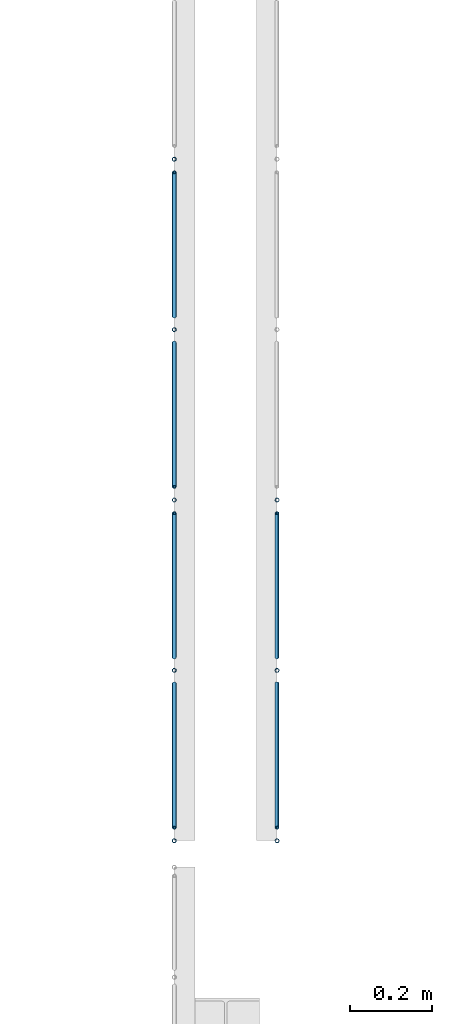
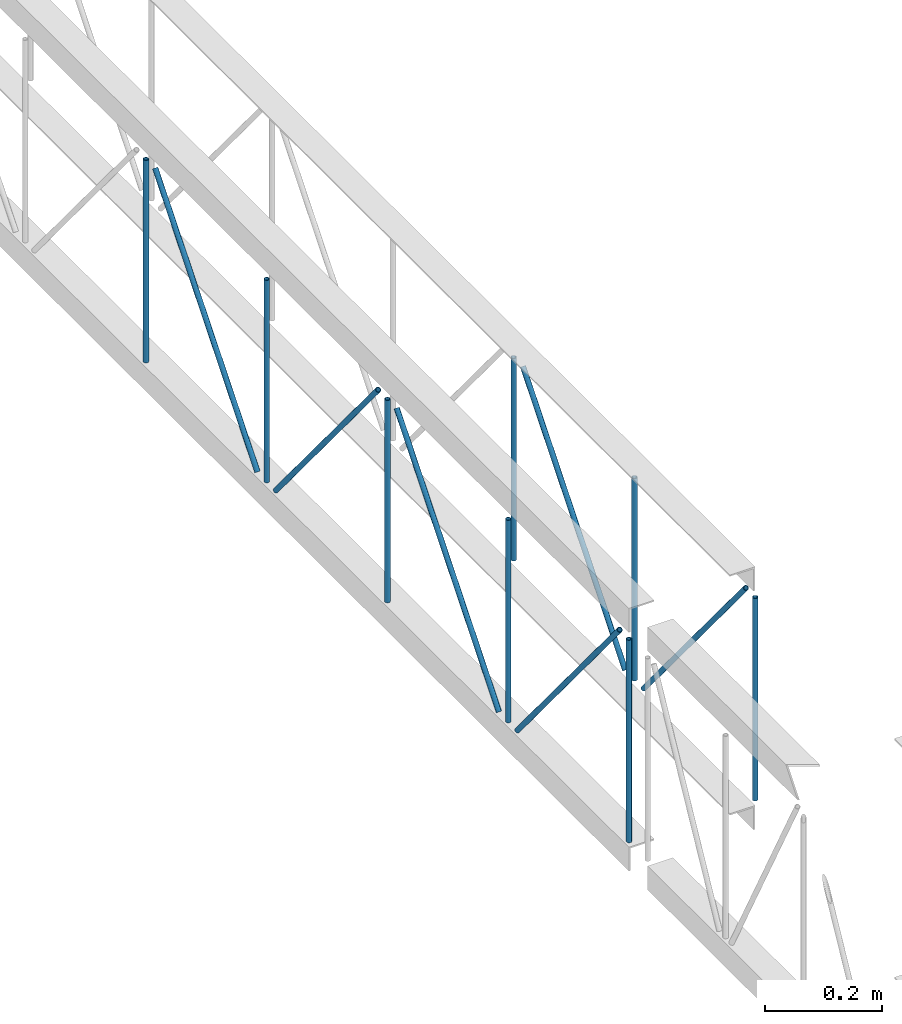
# One storey, part 47 of 153: 14 members, 2 elements without a shape of their own.
"""IFC4 building model written with IfcOpenShell, lengths in metres."""

from ifc_helpers import new_model, entity, si_unit, converted_unit, derived_unit, direction, frame, origin, place, context, subcontext, project, spatial, arc, indexed_curve, outline, extrude, source, transform, mapped, material, type_object, type_shapes, element, aggregate, save


model = new_model("IFC4")

# Units and contexts
model_context = context("Model", 3, precision=1e-05, world=origin(), true_north=direction((6.123031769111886e-17, 1.0)))
body_context = subcontext(model_context, "Body", "Model", "MODEL_VIEW")
ifc_project = project(units=[si_unit("LENGTHUNIT", "METRE"), si_unit("AREAUNIT", "SQUARE_METRE"), si_unit("VOLUMEUNIT", "CUBIC_METRE"), converted_unit("PLANEANGLEUNIT", "DEGREE", entity("IfcRatioMeasure", 0.017453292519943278), si_unit("PLANEANGLEUNIT", "RADIAN"), dimensions=[0, 0, 0, 0, 0, 0, 0]), si_unit("MASSUNIT", "GRAM", prefix="KILO"), derived_unit("MASSDENSITYUNIT", [(si_unit("MASSUNIT", "GRAM", prefix="KILO"), 1), (si_unit("LENGTHUNIT", "METRE"), -3)]), derived_unit("MOMENTOFINERTIAUNIT", [(si_unit("LENGTHUNIT", "METRE"), 4)]), si_unit("TIMEUNIT", "SECOND"), si_unit("FREQUENCYUNIT", "HERTZ"), si_unit("THERMODYNAMICTEMPERATUREUNIT", "DEGREE_CELSIUS"), derived_unit("THERMALTRANSMITTANCEUNIT", [(si_unit("MASSUNIT", "GRAM", prefix="KILO"), 1), (si_unit("THERMODYNAMICTEMPERATUREUNIT", "KELVIN"), -1), (si_unit("TIMEUNIT", "SECOND"), -3)]), derived_unit("VOLUMETRICFLOWRATEUNIT", [(si_unit("LENGTHUNIT", "METRE"), 3), (si_unit("TIMEUNIT", "SECOND"), -1)]), derived_unit("MASSFLOWRATEUNIT", [(si_unit("MASSUNIT", "GRAM", prefix="KILO"), 1), (si_unit("TIMEUNIT", "SECOND"), -1)]), derived_unit("ROTATIONALFREQUENCYUNIT", [(si_unit("TIMEUNIT", "SECOND"), -1)]), si_unit("ELECTRICCURRENTUNIT", "AMPERE"), si_unit("ELECTRICVOLTAGEUNIT", "VOLT"), si_unit("POWERUNIT", "WATT"), si_unit("FORCEUNIT", "NEWTON", prefix="KILO"), si_unit("ILLUMINANCEUNIT", "LUX"), si_unit("LUMINOUSFLUXUNIT", "LUMEN"), si_unit("LUMINOUSINTENSITYUNIT", "CANDELA"), derived_unit("USERDEFINED", [(si_unit("MASSUNIT", "GRAM", prefix="KILO"), -1), (si_unit("LENGTHUNIT", "METRE"), -2), (si_unit("TIMEUNIT", "SECOND"), 3), (si_unit("LUMINOUSFLUXUNIT", "LUMEN"), 1)]), derived_unit("SOUNDPOWERUNIT", [(si_unit("MASSUNIT", "GRAM", prefix="KILO"), 1), (si_unit("LENGTHUNIT", "METRE"), 2), (si_unit("TIMEUNIT", "SECOND"), -3)]), derived_unit("SOUNDPRESSUREUNIT", [(si_unit("MASSUNIT", "GRAM", prefix="KILO"), 1), (si_unit("LENGTHUNIT", "METRE"), -1), (si_unit("TIMEUNIT", "SECOND"), -2)]), derived_unit("LINEARVELOCITYUNIT", [(si_unit("LENGTHUNIT", "METRE"), 1), (si_unit("TIMEUNIT", "SECOND"), -1)]), si_unit("PRESSUREUNIT", "PASCAL"), derived_unit("USERDEFINED", [(si_unit("LENGTHUNIT", "METRE"), -2), (si_unit("MASSUNIT", "GRAM", prefix="KILO"), 1), (si_unit("TIMEUNIT", "SECOND"), -2)]), derived_unit("LINEARFORCEUNIT", [(si_unit("MASSUNIT", "GRAM", prefix="KILO"), 1), (si_unit("LENGTHUNIT", "METRE"), 1), (si_unit("TIMEUNIT", "SECOND"), -2), (si_unit("LENGTHUNIT", "METRE"), -1)]), derived_unit("PLANARFORCEUNIT", [(si_unit("MASSUNIT", "GRAM", prefix="KILO"), 1), (si_unit("LENGTHUNIT", "METRE"), 1), (si_unit("TIMEUNIT", "SECOND"), -2), (si_unit("LENGTHUNIT", "METRE"), -2)])], contexts=[model_context])

# Site, building, storey
site_placement = place(None, origin())
site = spatial("IfcSite", under=ifc_project, at=site_placement, Name="Superficie", CompositionType="ELEMENT")
building_placement = place(site_placement, origin())
building = spatial("IfcBuilding", under=site, at=building_placement, CompositionType="ELEMENT")
storey_placement = place(building_placement, frame((0.0, 0.0, 3.5999999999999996)))
storey = spatial("IfcBuildingStorey", under=building, at=storey_placement, Name="Nivel 1", CompositionType="ELEMENT", Elevation=3.5999999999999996)

# Assembly, members
assembly_1_placement = place(storey_placement, origin())
assembly_1 = element("IfcElementAssembly", 1, at=assembly_1_placement, inside=storey, Name="Viga de celosia 13:Viga de celosia 13", ObjectType="Viga de celosia 13:Viga de celosia 13", AssemblyPlace="NOTDEFINED", PredefinedType="TRUSS")
ifc_material = material(Name="Metal - Calibre delgado", Category="Metal")
member_type_1 = type_object("IfcMemberType", Name="HSS-Tubo estructural redondo:HSS 0.01", PredefinedType="BRACE", material=ifc_material)
shared_shape_1 = source(origin(), body_context, "Body", "SweptSolid", [
    extrude(outline(indexed_curve([(-0.005000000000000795, 7.502054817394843e-18), (-9.800269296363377e-18, -0.005000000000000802), (0.005000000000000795, -7.502054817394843e-18), (8.07772287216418e-18, 0.005000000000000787)], segments=[arc(1, 2, 3), arc(3, 4, 1)], self_intersect=False), holes=[indexed_curve([(0.003999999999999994, 7.222511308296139e-17), (6.910645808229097e-17, -0.004000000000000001), (-0.003999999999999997, -1.8650054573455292e-17), (-2.9156497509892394e-17, 0.003999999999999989)], segments=[arc(1, 2, 3), arc(3, 4, 1)], self_intersect=False)]), frame((-0.21200000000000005, 0.0, 0.0), z_axis=(1.0, 0.0, 0.0), x_axis=(0.0, 1.0, 0.0)), (0.0, 0.0, 1.0), 0.4240000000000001),
])
type_shapes(member_type_1, [shared_shape_1])
member_1_placement = place(assembly_1_placement, frame((-3.913200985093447, -9.13445195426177, 0.25), z_axis=(0.0, 1.0, 0.0), x_axis=(0.0, 0.0, 1.0)))
member_1 = element("IfcMember", 2, at=member_1_placement, type_object=member_type_1, material=ifc_material, Name="HSS-Tubo estructural redondo:HSS 0.01", ObjectType="HSS-Tubo estructural redondo:HSS 0.01", PredefinedType="BRACE", context=body_context, shape_type="MappedRepresentation", body=[
    mapped(shared_shape_1, transform((0.0, 0.0, 0.0), scale=1.0)),
])
member_2_placement = place(assembly_1_placement, frame((-3.913200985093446, -8.72010586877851, 0.25), z_axis=(0.0, 1.0, 0.0), x_axis=(0.0, 0.0, 1.0)))
member_2 = element("IfcMember", 3, at=member_2_placement, type_object=member_type_1, material=ifc_material, Name="HSS-Tubo estructural redondo:HSS 0.01", ObjectType="HSS-Tubo estructural redondo:HSS 0.01", PredefinedType="BRACE", context=body_context, shape_type="MappedRepresentation", body=[
    mapped(shared_shape_1, transform((0.0, 0.0, 0.0), scale=1.0)),
])
member_3_placement = place(assembly_1_placement, frame((-3.9132009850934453, -8.305759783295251, 0.25), z_axis=(0.0, 1.0, 0.0), x_axis=(0.0, 0.0, 1.0)))
member_3 = element("IfcMember", 4, at=member_3_placement, type_object=member_type_1, material=ifc_material, Name="HSS-Tubo estructural redondo:HSS 0.01", ObjectType="HSS-Tubo estructural redondo:HSS 0.01", PredefinedType="BRACE", context=body_context, shape_type="MappedRepresentation", body=[
    mapped(shared_shape_1, transform((0.0, 0.0, 0.0), scale=1.0)),
])
member_4_placement = place(assembly_1_placement, frame((-3.913200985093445, -7.8914136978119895, 0.25), z_axis=(0.0, 1.0, 0.0), x_axis=(0.0, 0.0, 1.0)))
member_4 = element("IfcMember", 5, at=member_4_placement, type_object=member_type_1, material=ifc_material, Name="HSS-Tubo estructural redondo:HSS 0.01", ObjectType="HSS-Tubo estructural redondo:HSS 0.01", PredefinedType="BRACE", context=body_context, shape_type="MappedRepresentation", body=[
    mapped(shared_shape_1, transform((0.0, 0.0, 0.0), scale=1.0)),
])
member_5_placement = place(assembly_1_placement, frame((-3.9132009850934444, -7.477067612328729, 0.25), z_axis=(0.0, 1.0, 0.0), x_axis=(0.0, 0.0, 1.0)))
member_5 = element("IfcMember", 6, at=member_5_placement, type_object=member_type_1, material=ifc_material, Name="HSS-Tubo estructural redondo:HSS 0.01", ObjectType="HSS-Tubo estructural redondo:HSS 0.01", PredefinedType="BRACE", context=body_context, shape_type="MappedRepresentation", body=[
    mapped(shared_shape_1, transform((0.0, 0.0, 0.0), scale=1.0)),
])
member_type_2 = type_object("IfcMemberType", Name="HSS-Tubo estructural redondo:HSS 0.01", PredefinedType="BRACE", material=ifc_material)
shared_shape_2 = source(origin(), body_context, "Body", "SweptSolid", [
    extrude(outline(indexed_curve([(-0.005000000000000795, 7.502054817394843e-18), (-9.800269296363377e-18, -0.005000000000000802), (0.005000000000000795, -7.502054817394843e-18), (8.07772287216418e-18, 0.005000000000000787)], segments=[arc(1, 2, 3), arc(3, 4, 1)], self_intersect=False), holes=[indexed_curve([(0.003999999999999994, 7.222511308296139e-17), (6.910645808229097e-17, -0.004000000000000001), (-0.003999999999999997, -1.8650054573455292e-17), (-2.9156497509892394e-17, 0.003999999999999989)], segments=[arc(1, 2, 3), arc(3, 4, 1)], self_intersect=False)]), frame((-0.275, 0.0, 0.0), z_axis=(1.0, 0.0, 0.0), x_axis=(0.0, 1.0, 0.0)), (0.0, 0.0, 1.0), 0.55),
])
type_shapes(member_type_2, [shared_shape_2])
member_6_placement = place(assembly_1_placement, frame((-3.9132009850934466, -8.927278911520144, 0.25), z_axis=(0.0, -0.7699758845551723, -0.638072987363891), x_axis=(0.0, 0.638072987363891, -0.7699758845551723)))
member_6 = element("IfcMember", 7, at=member_6_placement, type_object=member_type_2, material=ifc_material, Name="HSS-Tubo estructural redondo:HSS 0.01", ObjectType="HSS-Tubo estructural redondo:HSS 0.01", PredefinedType="BRACE", context=body_context, shape_type="MappedRepresentation", body=[
    mapped(shared_shape_2, transform((0.0, 0.0, 0.0), scale=1.0)),
])
member_7_placement = place(assembly_1_placement, frame((-3.9132009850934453, -8.51293282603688, 0.25), z_axis=(0.0, 0.7699758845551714, -0.638072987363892), x_axis=(0.0, 0.638072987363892, 0.7699758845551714)))
member_7 = element("IfcMember", 8, at=member_7_placement, type_object=member_type_2, material=ifc_material, Name="HSS-Tubo estructural redondo:HSS 0.01", ObjectType="HSS-Tubo estructural redondo:HSS 0.01", PredefinedType="BRACE", context=body_context, shape_type="MappedRepresentation", body=[
    mapped(shared_shape_2, transform((0.0, 0.0, 0.0), scale=1.0)),
])
member_8_placement = place(assembly_1_placement, frame((-3.9132009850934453, -8.09858674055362, 0.25), z_axis=(0.0, -0.7699758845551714, -0.638072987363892), x_axis=(0.0, 0.638072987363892, -0.7699758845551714)))
member_8 = element("IfcMember", 9, at=member_8_placement, type_object=member_type_2, material=ifc_material, Name="HSS-Tubo estructural redondo:HSS 0.01", ObjectType="HSS-Tubo estructural redondo:HSS 0.01", PredefinedType="BRACE", context=body_context, shape_type="MappedRepresentation", body=[
    mapped(shared_shape_2, transform((0.0, 0.0, 0.0), scale=1.0)),
])
member_9_placement = place(assembly_1_placement, frame((-3.9132009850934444, -7.68424065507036, 0.25000000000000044), z_axis=(0.0, 0.7699758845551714, -0.638072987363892), x_axis=(0.0, 0.638072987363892, 0.7699758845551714)))
member_9 = element("IfcMember", 10, at=member_9_placement, type_object=member_type_2, material=ifc_material, Name="HSS-Tubo estructural redondo:HSS 0.01", ObjectType="HSS-Tubo estructural redondo:HSS 0.01", PredefinedType="BRACE", context=body_context, shape_type="MappedRepresentation", body=[
    mapped(shared_shape_2, transform((0.0, 0.0, 0.0), scale=1.0)),
])
aggregate(assembly_1, [member_1, member_2, member_3, member_4, member_5, member_6, member_7, member_8, member_9])

assembly_2_placement = place(storey_placement, origin())
assembly_2 = element("IfcElementAssembly", 11, at=assembly_2_placement, inside=storey, Name="Viga de celosia 13:Viga de celosia 13", ObjectType="Viga de celosia 13:Viga de celosia 13", AssemblyPlace="NOTDEFINED", PredefinedType="TRUSS")
member_type_3 = type_object("IfcMemberType", Name="HSS-Tubo estructural redondo:HSS 0.01", PredefinedType="BRACE", material=ifc_material)
shared_shape_3 = source(origin(), body_context, "Body", "SweptSolid", [
    extrude(outline(indexed_curve([(-0.005000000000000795, 2.0824731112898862e-17), (-2.3122945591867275e-17, -0.005000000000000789), (0.005000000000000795, -2.08247311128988e-17), (2.14003991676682e-17, 0.005000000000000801)], segments=[arc(1, 2, 3), arc(3, 4, 1)], self_intersect=False), holes=[indexed_curve([(0.003999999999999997, -1.3094283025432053e-17), (-1.531427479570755e-18, -0.003999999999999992), (-0.004, 4.0098531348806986e-17), (4.1481388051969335e-17, 0.0039999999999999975)], segments=[arc(1, 2, 3), arc(3, 4, 1)], self_intersect=False)]), frame((-0.21200000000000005, 0.0, 0.0), z_axis=(1.0, 0.0, 0.0), x_axis=(0.0, -1.0, 0.0)), (0.0, 0.0, 1.0), 0.4240000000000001),
])
type_shapes(member_type_3, [shared_shape_3])
member_10_placement = place(assembly_2_placement, frame((-3.663200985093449, -9.13445195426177, 0.25), z_axis=(0.0, 1.0, 0.0), x_axis=(0.0, 0.0, 1.0)))
member_10 = element("IfcMember", 12, at=member_10_placement, type_object=member_type_3, material=ifc_material, Name="HSS-Tubo estructural redondo:HSS 0.01", ObjectType="HSS-Tubo estructural redondo:HSS 0.01", PredefinedType="BRACE", context=body_context, shape_type="MappedRepresentation", body=[
    mapped(shared_shape_3, transform((0.0, 0.0, 0.0), scale=1.0)),
])
member_11_placement = place(assembly_2_placement, frame((-3.6632009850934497, -8.72010586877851, 0.25), z_axis=(0.0, 1.0, 0.0), x_axis=(0.0, 0.0, 1.0)))
member_11 = element("IfcMember", 13, at=member_11_placement, type_object=member_type_3, material=ifc_material, Name="HSS-Tubo estructural redondo:HSS 0.01", ObjectType="HSS-Tubo estructural redondo:HSS 0.01", PredefinedType="BRACE", context=body_context, shape_type="MappedRepresentation", body=[
    mapped(shared_shape_3, transform((0.0, 0.0, 0.0), scale=1.0)),
])
member_12_placement = place(assembly_2_placement, frame((-3.66320098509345, -8.305759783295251, 0.25), z_axis=(0.0, 1.0, 0.0), x_axis=(0.0, 0.0, 1.0)))
member_12 = element("IfcMember", 14, at=member_12_placement, type_object=member_type_3, material=ifc_material, Name="HSS-Tubo estructural redondo:HSS 0.01", ObjectType="HSS-Tubo estructural redondo:HSS 0.01", PredefinedType="BRACE", context=body_context, shape_type="MappedRepresentation", body=[
    mapped(shared_shape_3, transform((0.0, 0.0, 0.0), scale=1.0)),
])
member_type_4 = type_object("IfcMemberType", Name="HSS-Tubo estructural redondo:HSS 0.01", PredefinedType="BRACE", material=ifc_material)
shared_shape_4 = source(origin(), body_context, "Body", "SweptSolid", [
    extrude(outline(indexed_curve([(-0.005000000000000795, 2.0824731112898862e-17), (-2.3122945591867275e-17, -0.005000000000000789), (0.005000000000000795, -2.08247311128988e-17), (2.14003991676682e-17, 0.005000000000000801)], segments=[arc(1, 2, 3), arc(3, 4, 1)], self_intersect=False), holes=[indexed_curve([(0.003999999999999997, -1.3094283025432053e-17), (-1.531427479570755e-18, -0.003999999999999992), (-0.004, 4.0098531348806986e-17), (4.1481388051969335e-17, 0.0039999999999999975)], segments=[arc(1, 2, 3), arc(3, 4, 1)], self_intersect=False)]), frame((-0.275, 0.0, 0.0), z_axis=(1.0, 0.0, 0.0), x_axis=(0.0, -1.0, 0.0)), (0.0, 0.0, 1.0), 0.55),
])
type_shapes(member_type_4, [shared_shape_4])
member_13_placement = place(assembly_2_placement, frame((-3.6632009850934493, -8.927278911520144, 0.25), z_axis=(0.0, -0.7699758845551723, -0.638072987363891), x_axis=(0.0, 0.638072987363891, -0.7699758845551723)))
member_13 = element("IfcMember", 15, at=member_13_placement, type_object=member_type_4, material=ifc_material, Name="HSS-Tubo estructural redondo:HSS 0.01", ObjectType="HSS-Tubo estructural redondo:HSS 0.01", PredefinedType="BRACE", context=body_context, shape_type="MappedRepresentation", body=[
    mapped(shared_shape_4, transform((0.0, 0.0, 0.0), scale=1.0)),
])
member_14_placement = place(assembly_2_placement, frame((-3.66320098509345, -8.51293282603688, 0.25), z_axis=(0.0, 0.7699758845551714, -0.638072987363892), x_axis=(0.0, 0.638072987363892, 0.7699758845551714)))
member_14 = element("IfcMember", 16, at=member_14_placement, type_object=member_type_4, material=ifc_material, Name="HSS-Tubo estructural redondo:HSS 0.01", ObjectType="HSS-Tubo estructural redondo:HSS 0.01", PredefinedType="BRACE", context=body_context, shape_type="MappedRepresentation", body=[
    mapped(shared_shape_4, transform((0.0, 0.0, 0.0), scale=1.0)),
])
aggregate(assembly_2, [member_10, member_11, member_12, member_13, member_14])

save(model, "model.ifc")
